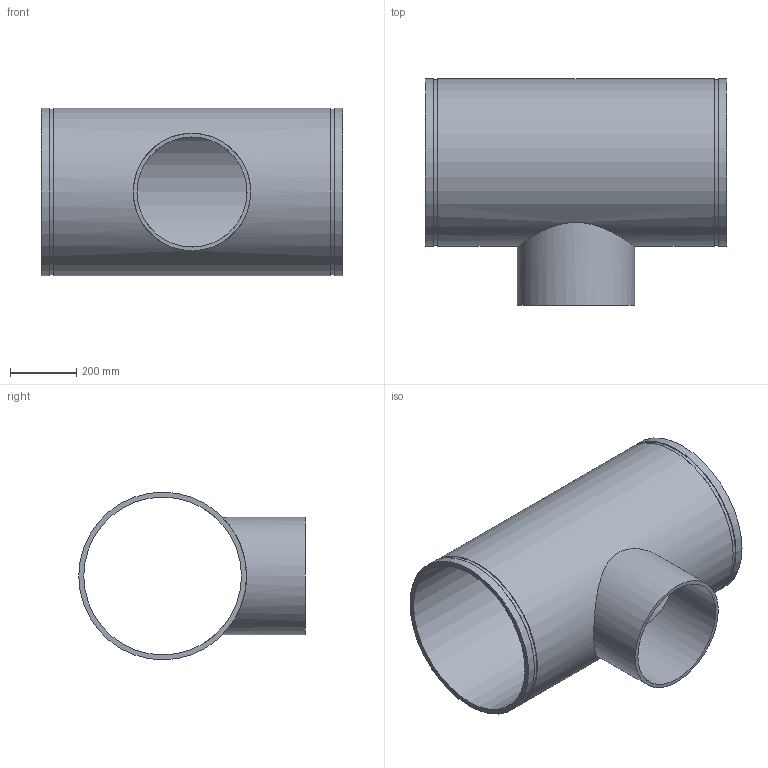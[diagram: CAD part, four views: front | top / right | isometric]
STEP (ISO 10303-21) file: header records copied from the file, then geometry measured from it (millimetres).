
FILE_DESCRIPTION(/* description */ ('VIC REDUCING TEE No 29T FFT (OGSxMPT)','CAx-IF Rec.Pracs.---Representation and Presentation of Product Manufacturing Information (PMI)---4.0---2014-10-13'),/* implementation_level */ '2;1');
FILE_NAME(/* name */ 'C:\Users\kkamble\AppData\Roaming\Autodesk\ApplicationPlugins\Back Up\Victaulic_IPS_Tee Reducing_No 29T FFT (OGSxMPT)\Victaulic_IPS_Tee Reducing_No 29T FFT (OGSxMPT)_20.0x14.0 (500x350).stp',/* time_stamp */ '2020-09-16T22:40:32+05:00',/* author */ ('CORINNE GRAY'),/* organization */ ('Victaulic'),/* preprocessor_version */ 'ST-DEVELOPER v17.2',/* originating_system */ 'Autodesk Inventor 2019',/* authorisation */ '');
FILE_SCHEMA (('AP242_MANAGED_MODEL_BASED_3D_ENGINEERING_MIM_LF { 1 0 10303 442 1 1 4 }'));
Length unit declared in the file: inch
Products named in the file (1): 29 FFT-20.0x14.0
Bounding box: 914.4 x 685.8 x 508 mm (x, y, z)
Volume: 22333070.2 mm3; surface area: 3180648.6 mm2
Topology: 1 solids, 1 shells, 15 faces, 32 edges, 24 vertices
Faces by surface type: cylinder 8, plane 7
Full cylindrical faces by diameter (mm): 333.4 x1, 355.6 x1, 477.876 x1, 502.437 x2, 508 x3
Entity records: 749 total; most frequent: CARTESIAN_POINT 261, DIRECTION 106, ORIENTED_EDGE 64, AXIS2_PLACEMENT_3D 49, EDGE_CURVE 32, EDGE_LOOP 24, VERTEX_POINT 24, CIRCLE 20
